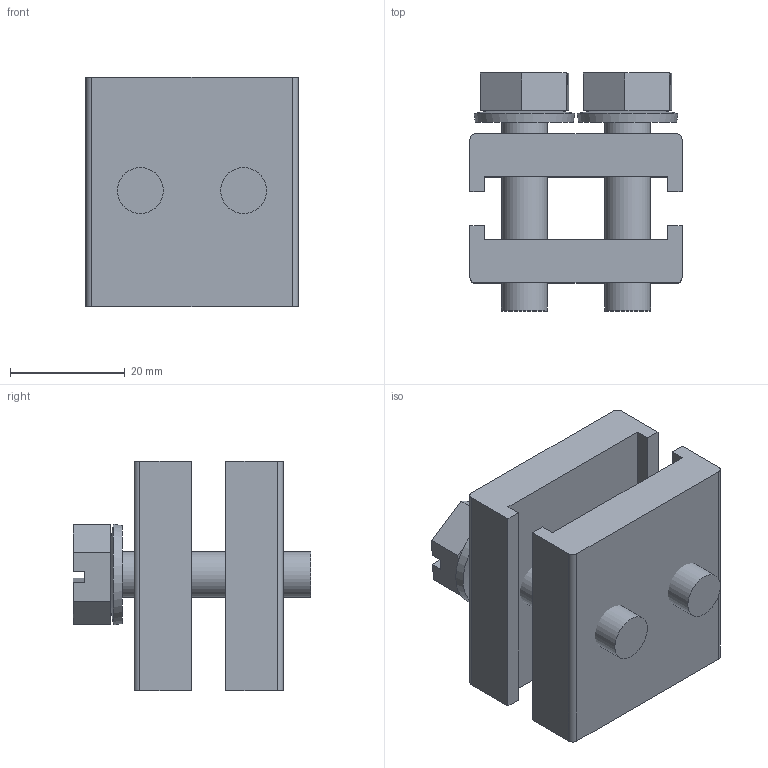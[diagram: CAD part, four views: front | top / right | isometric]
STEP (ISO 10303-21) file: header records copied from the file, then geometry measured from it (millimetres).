
FILE_DESCRIPTION (( 'STEP AP203' ), '1' );
FILE_NAME ('54990.STEP', '2021-08-16T02:14:14', ( '' ), ( '' ), 'SwSTEP 2.0', 'SolidWorks 2017', '' );
FILE_SCHEMA (( 'CONFIG_CONTROL_DESIGN' ));
Length unit declared in the file: millimetre
Products named in the file (2): 54990
Bounding box: 37 x 41.5 x 40 mm (x, y, z)
Volume: 29663.1 mm3; surface area: 13302.8 mm2
Topology: 6 solids, 6 shells, 60 faces, 144 edges, 94 vertices
Faces by surface type: plane 46, cone 8, cylinder 6
Full cylindrical faces by diameter (mm): 8 x2
Entity records: 1805 total; most frequent: CARTESIAN_POINT 286, DIRECTION 276, ORIENTED_EDGE 264, EDGE_CURVE 132, LINE 112, VECTOR 112, VERTEX_POINT 92, AXIS2_PLACEMENT_3D 82
